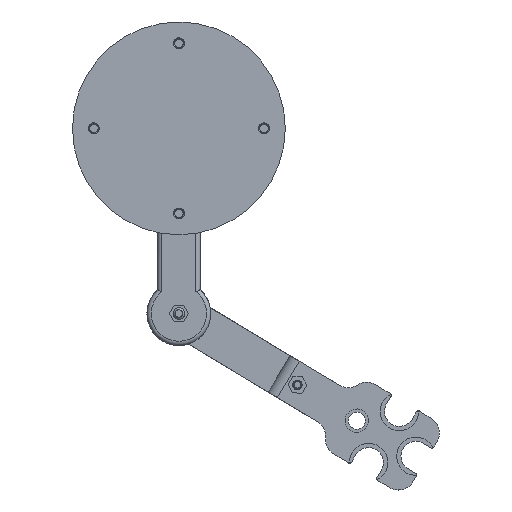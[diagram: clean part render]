
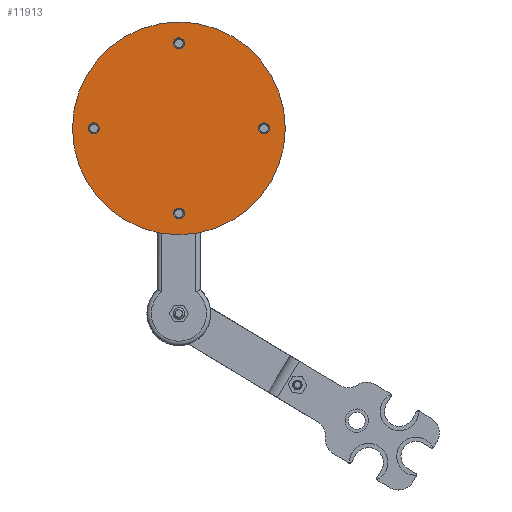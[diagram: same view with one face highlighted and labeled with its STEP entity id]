
A CAD part, front view. The second image highlights one B-rep face of the part: STEP entity #11913.
In plain terms, the highlighted planar face has unit normal (0, -1, 0) as drawn and (0, 0, 1) by its records, which use the part's own axes.
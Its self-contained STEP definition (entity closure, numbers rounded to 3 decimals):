
#689=FACE_BOUND('',#1585,.T.);
#690=FACE_BOUND('',#1586,.T.);
#691=FACE_BOUND('',#1587,.T.);
#692=FACE_BOUND('',#1588,.T.);
#875=FACE_OUTER_BOUND('',#1584,.T.);
#1584=EDGE_LOOP('',(#8506));
#1585=EDGE_LOOP('',(#8507));
#1586=EDGE_LOOP('',(#8508));
#1587=EDGE_LOOP('',(#8509));
#1588=EDGE_LOOP('',(#8510));
#2286=CIRCLE('',#13025,2.567);
#2289=CIRCLE('',#13029,50.);
#2290=CIRCLE('',#13030,2.567);
#2291=CIRCLE('',#13031,2.567);
#2292=CIRCLE('',#13032,2.567);
#5128=VERTEX_POINT('',#17666);
#5131=VERTEX_POINT('',#17674);
#5132=VERTEX_POINT('',#17676);
#5133=VERTEX_POINT('',#17678);
#5134=VERTEX_POINT('',#17680);
#6401=EDGE_CURVE('',#5128,#5128,#2286,.T.);
#6405=EDGE_CURVE('',#5131,#5131,#2289,.T.);
#6406=EDGE_CURVE('',#5132,#5132,#2290,.T.);
#6407=EDGE_CURVE('',#5133,#5133,#2291,.T.);
#6408=EDGE_CURVE('',#5134,#5134,#2292,.T.);
#8506=ORIENTED_EDGE('',*,*,#6405,.T.);
#8507=ORIENTED_EDGE('',*,*,#6406,.F.);
#8508=ORIENTED_EDGE('',*,*,#6407,.F.);
#8509=ORIENTED_EDGE('',*,*,#6408,.F.);
#8510=ORIENTED_EDGE('',*,*,#6401,.F.);
#11466=PLANE('',#13028);
#11913=ADVANCED_FACE('',(#875,#689,#690,#691,#692),#11466,.T.);
#13025=AXIS2_PLACEMENT_3D('',#17667,#14490,#14491);
#13028=AXIS2_PLACEMENT_3D('',#17673,#14497,#14498);
#13029=AXIS2_PLACEMENT_3D('',#17675,#14499,#14500);
#13030=AXIS2_PLACEMENT_3D('',#17677,#14501,#14502);
#13031=AXIS2_PLACEMENT_3D('',#17679,#14503,#14504);
#13032=AXIS2_PLACEMENT_3D('',#17681,#14505,#14506);
#14490=DIRECTION('center_axis',(0.,0.,1.));
#14491=DIRECTION('ref_axis',(0.,-1.,0.));
#14497=DIRECTION('center_axis',(0.,0.,1.));
#14498=DIRECTION('ref_axis',(1.,0.,0.));
#14499=DIRECTION('center_axis',(0.,0.,1.));
#14500=DIRECTION('ref_axis',(1.,0.,0.));
#14501=DIRECTION('center_axis',(0.,0.,1.));
#14502=DIRECTION('ref_axis',(1.,0.,0.));
#14503=DIRECTION('center_axis',(0.,0.,1.));
#14504=DIRECTION('ref_axis',(-1.,0.,0.));
#14505=DIRECTION('center_axis',(0.,0.,1.));
#14506=DIRECTION('ref_axis',(0.,1.,0.));
#17666=CARTESIAN_POINT('',(-40.,2.567,20.));
#17667=CARTESIAN_POINT('Origin',(-40.,0.,20.));
#17673=CARTESIAN_POINT('Origin',(0.,0.,20.));
#17674=CARTESIAN_POINT('',(-50.,0.,20.));
#17675=CARTESIAN_POINT('Origin',(0.,0.,20.));
#17676=CARTESIAN_POINT('',(-2.567,-40.,20.));
#17677=CARTESIAN_POINT('Origin',(0.,-40.,20.));
#17678=CARTESIAN_POINT('',(2.567,40.,20.));
#17679=CARTESIAN_POINT('Origin',(0.,40.,20.));
#17680=CARTESIAN_POINT('',(40.,-2.567,20.));
#17681=CARTESIAN_POINT('Origin',(40.,0.,20.));
